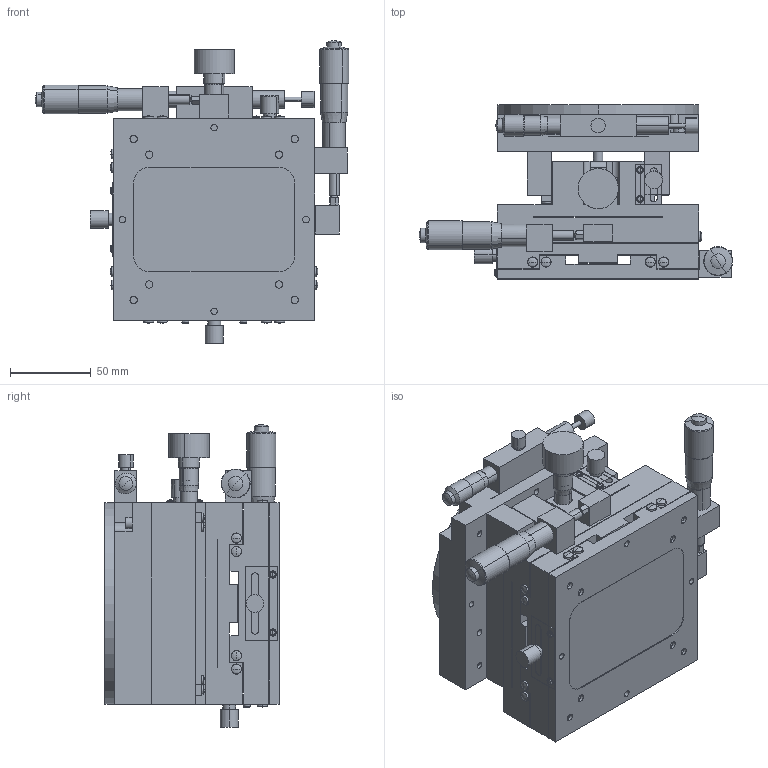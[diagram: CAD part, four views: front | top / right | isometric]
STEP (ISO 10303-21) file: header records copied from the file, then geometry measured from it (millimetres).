
FILE_DESCRIPTION (( 'STEP AP203' ), '1' );
FILE_NAME ('TR-101-R1.STEP', '2013-10-17T04:51:20', ( '' ), ( '' ), 'SwSTEP 2.0', 'SolidWorks 2011', '' );
FILE_SCHEMA (( 'CONFIG_CONTROL_DESIGN' ));
Length unit declared in the file: millimetre
Products named in the file (8): TR-101-R1; TR-101-R1-7; TR-101-R1-6; TR-101-R1-5; TR-101-R1-4; TR-101-R1-3; TR-101-R1-2; TR-101-R1-1
Assembly tree (7 placements, depth 2):
  TR-101-R1
    TR-101-R1-5
    TR-101-R1-4
    TR-101-R1-6
    TR-101-R1-3
    TR-101-R1-7
    TR-101-R1-2
    TR-101-R1-1
Bounding box: 194.48 x 108.16 x 187.8 mm (x, y, z)
Volume: 1410701.3 mm3; surface area: 323318.8 mm2
Topology: 10 solids, 10 shells, 899 faces, 2212 edges, 1413 vertices
Faces by surface type: plane 370, cylinder 331, cone 114, sphere 54, torus 30
Entity records: 27139 total; most frequent: DIRECTION 4871, CARTESIAN_POINT 4466, ORIENTED_EDGE 4252, EDGE_CURVE 2126, AXIS2_PLACEMENT_3D 1842, VERTEX_POINT 1379, LINE 1187, VECTOR 1187
